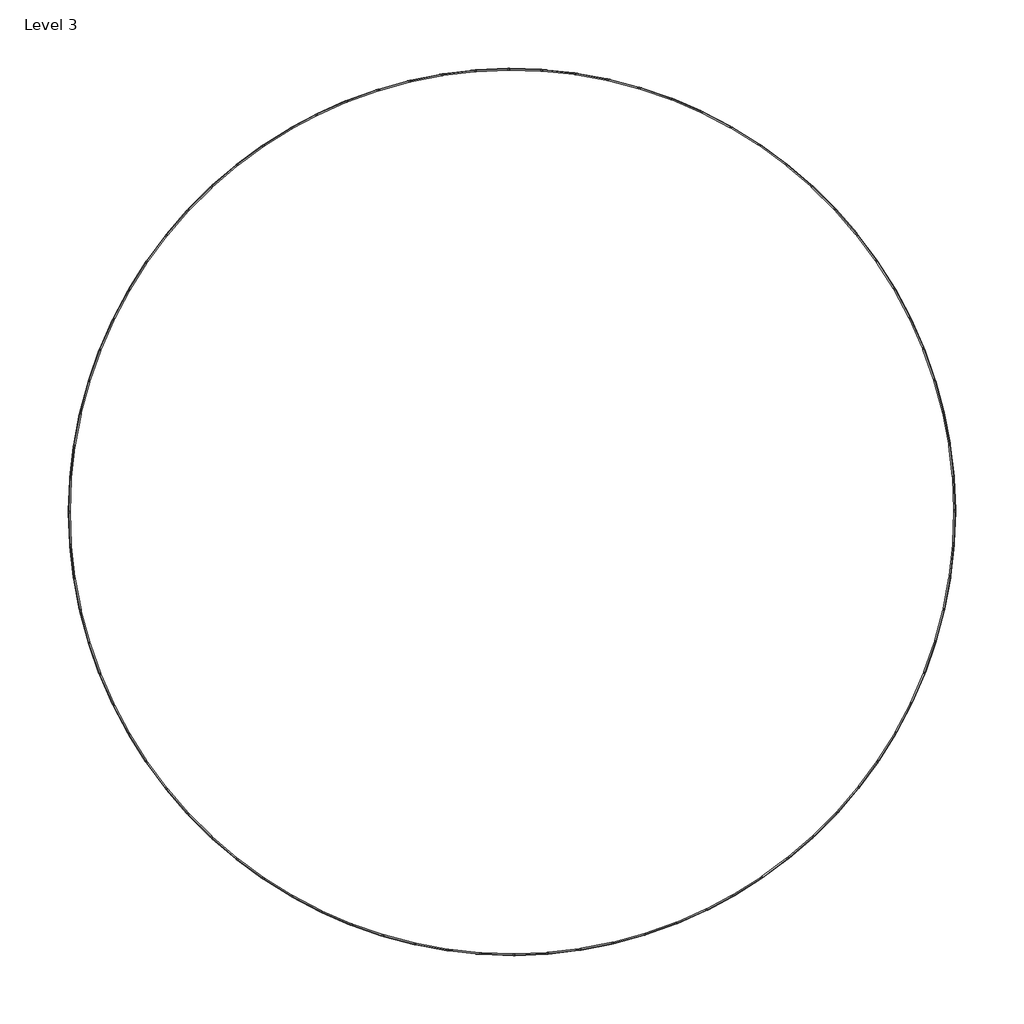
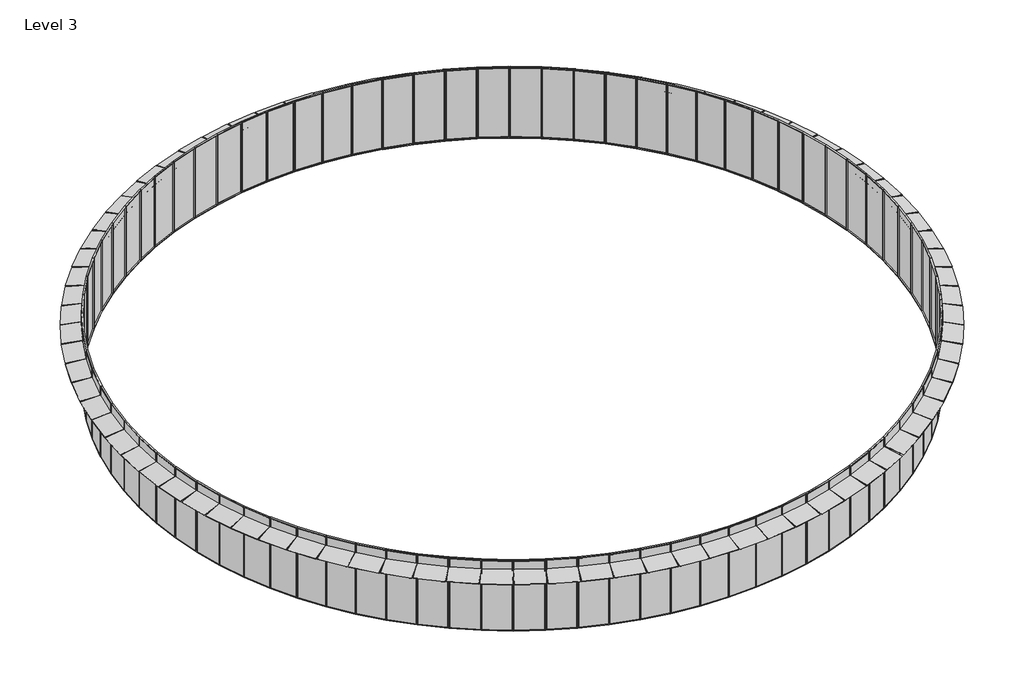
# One storey: 84 plates.
"""IFC4 building model written with IfcOpenShell, lengths in millimetres."""

from ifc_helpers import new_model, si_unit, origin, place, context, project, spatial, transform, mapped, element, save
from components import typical_panel_typical_panel_1d89b396, typical_panel_typical_panel_922f9ec0, typical_panel_typical_panel_46f82321

model = new_model("IFC4")

# Units and contexts
model_context = context("Model", 3, world=origin())
ifc_project = project(units=[si_unit("LENGTHUNIT", "METRE", prefix="MILLI")], contexts=[model_context])

# Site, building, storey
site = spatial("IfcSite", under=ifc_project)
building = spatial("IfcBuilding", under=site)
storey = spatial("IfcBuildingStorey", under=building, Name="Level 3", Elevation=8000.0)

# Plates
placement = place(None, origin())
typical_panel_typical_panel_shape = typical_panel_typical_panel_1d89b396(model_context)
element("IfcPlate", 1, ObjectType="Typical Panel : Typical Panel", at=placement, inside=storey, context=model_context, shape_type="MappedRepresentation", body=[
    mapped(typical_panel_typical_panel_shape, transform((10634.9997073, -16921.4148702, 8000.0), x_axis=(0.8466662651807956, 0.5321242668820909, 0.0), y_axis=(-0.5321242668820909, 0.8466662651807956, 0.0), z_axis=(0.0, 0.0, 1.0))),
])
element("IfcPlate", 2, ObjectType="Typical Panel : Typical Panel", at=placement, inside=storey, context=model_context, shape_type="MappedRepresentation", body=[
    mapped(typical_panel_typical_panel_shape, transform((-10583.4122709, 16953.727752, 8000.0), x_axis=(-0.8482830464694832, -0.5295430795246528, 0.0), y_axis=(0.5295430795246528, -0.8482830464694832, 0.0), z_axis=(0.0, 0.0, 1.0))),
])
typical_panel_typical_panel_2_shape = typical_panel_typical_panel_922f9ec0(model_context)
element("IfcPlate", 3, ObjectType="Typical Panel : Typical Panel", at=placement, inside=storey, context=model_context, shape_type="MappedRepresentation", body=[
    mapped(typical_panel_typical_panel_2_shape, transform((11873.30224, -16076.7594346, 8000.0), x_axis=(0.8044037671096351, 0.5940829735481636, 0.0), y_axis=(-0.5940829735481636, 0.8044037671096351, 0.0), z_axis=(0.0, 0.0, 1.0))),
])
element("IfcPlate", 4, ObjectType="Typical Panel : Typical Panel", at=placement, inside=storey, context=model_context, shape_type="MappedRepresentation", body=[
    mapped(typical_panel_typical_panel_2_shape, transform((13044.8174389, -15141.6722321, 8000.0), x_axis=(0.7576164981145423, 0.6526999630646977, 0.0), y_axis=(-0.6526999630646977, 0.7576164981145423, 0.0), z_axis=(0.0, 0.0, 1.0))),
])
element("IfcPlate", 5, ObjectType="Typical Panel : Typical Panel", at=placement, inside=storey, context=model_context, shape_type="MappedRepresentation", body=[
    mapped(typical_panel_typical_panel_2_shape, transform((14142.9555398, -14121.4131233, 8000.0), x_axis=(0.706567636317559, 0.7076455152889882, 0.0), y_axis=(-0.7076455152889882, 0.706567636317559, 0.0), z_axis=(0.0, 0.0, 1.0))),
])
element("IfcPlate", 6, ObjectType="Typical Panel : Typical Panel", at=placement, inside=storey, context=model_context, shape_type="MappedRepresentation", body=[
    mapped(typical_panel_typical_panel_2_shape, transform((15161.5395157, -13021.7210658, 8000.0), x_axis=(0.651544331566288, 0.7586105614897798, 0.0), y_axis=(-0.7586105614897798, 0.651544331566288, 0.0), z_axis=(0.0, 0.0, 1.0))),
])
element("IfcPlate", 7, ObjectType="Typical Panel : Typical Panel", at=placement, inside=storey, context=model_context, shape_type="MappedRepresentation", body=[
    mapped(typical_panel_typical_panel_2_shape, transform((16094.8398318, -11848.7818272, 8000.0), x_axis=(0.5928560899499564, 0.8053084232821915, 0.0), y_axis=(-0.8053084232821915, 0.5928560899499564, 0.0), z_axis=(0.0, 0.0, 1.0))),
])
element("IfcPlate", 8, ObjectType="Typical Panel : Typical Panel", at=placement, inside=storey, context=model_context, shape_type="MappedRepresentation", body=[
    mapped(typical_panel_typical_panel_2_shape, transform((16937.6066739, -10609.1931908, 8000.0), x_axis=(0.5308330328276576, 0.84747642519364, 0.0), y_axis=(-0.84747642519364, 0.5308330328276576, 0.0), z_axis=(0.0, 0.0, 1.0))),
])
element("IfcPlate", 9, ObjectType="Typical Panel : Typical Panel", at=placement, inside=storey, context=model_context, shape_type="MappedRepresentation", body=[
    mapped(typical_panel_typical_panel_2_shape, transform((17685.0994784, -9309.9278428, 8000.0), x_axis=(0.46582403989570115, 0.8848773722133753, 0.0), y_axis=(-0.8848773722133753, 0.46582403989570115, 0.0), z_axis=(0.0, 0.0, 1.0))),
])
element("IfcPlate", 10, ObjectType="Typical Panel : Typical Panel", at=placement, inside=storey, context=model_context, shape_type="MappedRepresentation", body=[
    mapped(typical_panel_typical_panel_2_shape, transform((18333.1135984, -7958.2941506, 8000.0), x_axis=(0.39819478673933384, 0.9173008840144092, 0.0), y_axis=(-0.9173008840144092, 0.39819478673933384, 0.0), z_axis=(0.0, 0.0, 1.0))),
])
element("IfcPlate", 11, ObjectType="Typical Panel : Typical Panel", at=placement, inside=storey, context=model_context, shape_type="MappedRepresentation", body=[
    mapped(typical_panel_typical_panel_2_shape, transform((18878.0039544, -6561.8950538, 8000.0), x_axis=(0.32832568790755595, 0.9445645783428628, 0.0), y_axis=(-0.9445645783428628, 0.32832568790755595, 0.0), z_axis=(0.0, 0.0, 1.0))),
])
element("IfcPlate", 12, ObjectType="Typical Panel : Typical Panel", at=placement, inside=storey, context=model_context, shape_type="MappedRepresentation", body=[
    mapped(typical_panel_typical_panel_2_shape, transform((19316.7055381, -5128.5852974, 8000.0), x_axis=(0.2566097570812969, 0.9665150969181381, 0.0), y_axis=(-0.9665150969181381, 0.2566097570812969, 0.0), z_axis=(0.0, 0.0, 1.0))),
])
element("IfcPlate", 13, ObjectType="Typical Panel : Typical Panel", at=placement, inside=storey, context=model_context, shape_type="MappedRepresentation", body=[
    mapped(typical_panel_typical_panel_2_shape, transform((19646.7506532, -3666.4272486, 8000.0), x_axis=(0.1834503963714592, 0.9830289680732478, 0.0), y_axis=(-0.9830289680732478, 0.1834503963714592, 0.0), z_axis=(0.0, 0.0, 1.0))),
])
element("IfcPlate", 14, ObjectType="Typical Panel : Typical Panel", at=placement, inside=storey, context=model_context, shape_type="MappedRepresentation", body=[
    mapped(typical_panel_typical_panel_2_shape, transform((19866.2827959, -2183.6455466, 8000.0), x_axis=(0.10925912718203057, 0.9940133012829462, 0.0), y_axis=(-0.9940133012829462, 0.10925912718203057, 0.0), z_axis=(0.0, 0.0, 1.0))),
])
element("IfcPlate", 15, ObjectType="Typical Panel : Typical Panel", at=placement, inside=storey, context=model_context, shape_type="MappedRepresentation", body=[
    mapped(typical_panel_typical_panel_2_shape, transform((19974.0670978, -688.5808384, 8000.0), x_axis=(0.03445327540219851, 0.9994063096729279, 0.0), y_axis=(-0.9994063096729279, 0.03445327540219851, 0.0), z_axis=(0.0, 0.0, 1.0))),
])
element("IfcPlate", 16, ObjectType="Typical Panel : Typical Panel", at=placement, inside=storey, context=model_context, shape_type="MappedRepresentation", body=[
    mapped(typical_panel_typical_panel_2_shape, transform((19969.4972724, 810.357137, 8000.0), x_axis=(-0.04054637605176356, 0.9991776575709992, 0.0), y_axis=(-0.9991776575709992, -0.04054637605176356, 0.0), z_axis=(0.0, 0.0, 1.0))),
])
element("IfcPlate", 17, ObjectType="Typical Panel : Typical Panel", at=placement, inside=storey, context=model_context, shape_type="MappedRepresentation", body=[
    mapped(typical_panel_typical_panel_2_shape, transform((19852.5990247, 2304.7368536, 8000.0), x_axis=(-0.115317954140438, 0.9933286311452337, 0.0), y_axis=(-0.9933286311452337, -0.115317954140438, 0.0), z_axis=(0.0, 0.0, 1.0))),
])
element("IfcPlate", 18, ObjectType="Typical Panel : Typical Panel", at=placement, inside=storey, context=model_context, shape_type="MappedRepresentation", body=[
    mapped(typical_panel_typical_panel_2_shape, transform((19624.0299075, 3786.1524253, 8000.0), x_axis=(-0.18944086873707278, 0.9818921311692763, 0.0), y_axis=(-0.9818921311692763, -0.18944086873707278, 0.0), z_axis=(0.0, 0.0, 1.0))),
])
element("IfcPlate", 19, ObjectType="Typical Panel : Typical Panel", at=placement, inside=storey, context=model_context, shape_type="MappedRepresentation", body=[
    mapped(typical_panel_typical_panel_2_shape, transform((19285.0756222, 5246.2708896, 8000.0), x_axis=(-0.2624981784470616, 0.9649324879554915, 0.0), y_axis=(-0.9649324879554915, -0.2624981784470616, 0.0), z_axis=(0.0, 0.0, 1.0))),
])
element("IfcPlate", 20, ObjectType="Typical Panel : Typical Panel", at=placement, inside=storey, context=model_context, shape_type="MappedRepresentation", body=[
    mapped(typical_panel_typical_panel_2_shape, transform((18837.6427864, 6676.8790802, 8000.0), x_axis=(-0.3340789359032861, 0.9425450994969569, 0.0), y_axis=(-0.9425450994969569, -0.3340789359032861, 0.0), z_axis=(0.0, 0.0, 1.0))),
])
element("IfcPlate", 21, ObjectType="Typical Panel : Typical Panel", at=placement, inside=storey, context=model_context, shape_type="MappedRepresentation", body=[
    mapped(typical_panel_typical_panel_2_shape, transform((18284.24821, 8069.929826, 8000.0), x_axis=(-0.40378049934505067, 0.9148558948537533, 0.0), y_axis=(-0.9148558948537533, -0.40378049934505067, 0.0), z_axis=(0.0, 0.0, 1.0))),
])
element("IfcPlate", 22, ObjectType="Typical Panel : Typical Panel", at=placement, inside=storey, context=model_context, shape_type="MappedRepresentation", body=[
    mapped(typical_panel_typical_panel_2_shape, transform((17628.0047373, 9417.5872165, 8000.0), x_axis=(-0.4712107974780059, 0.8820206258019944, 0.0), y_axis=(-0.8820206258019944, -0.4712107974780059, 0.0), z_axis=(0.0, 0.0, 1.0))),
])
element("IfcPlate", 23, ObjectType="Typical Panel : Typical Panel", at=placement, inside=storey, context=model_context, shape_type="MappedRepresentation", body=[
    mapped(typical_panel_typical_panel_2_shape, transform((16872.6037381, 10712.2706789, 8000.0), x_axis=(-0.5359905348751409, 0.8442239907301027, 0.0), y_axis=(-0.8442239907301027, -0.5359905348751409, 0.0), z_axis=(0.0, 0.0, 1.0))),
])
element("IfcPlate", 24, ObjectType="Typical Panel : Typical Panel", at=placement, inside=storey, context=model_context, shape_type="MappedRepresentation", body=[
    mapped(typical_panel_typical_panel_2_shape, transform((16022.2943428, 11946.6976187, 8000.0), x_axis=(-0.5977553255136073, 0.8016785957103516, 0.0), y_axis=(-0.8016785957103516, -0.5977553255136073, 0.0), z_axis=(0.0, 0.0, 1.0))),
])
element("IfcPlate", 25, ObjectType="Typical Panel : Typical Panel", at=placement, inside=storey, context=model_context, shape_type="MappedRepresentation", body=[
    mapped(typical_panel_typical_panel_2_shape, transform((15081.8595418, 13113.9243844, 8000.0), x_axis=(-0.656157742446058, 0.7546237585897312, 0.0), y_axis=(-0.7546237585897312, -0.656157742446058, 0.0), z_axis=(0.0, 0.0, 1.0))),
])
element("IfcPlate", 26, ObjectType="Typical Panel : Typical Panel", at=placement, inside=storey, context=model_context, shape_type="MappedRepresentation", body=[
    mapped(typical_panel_typical_panel_2_shape, transform((14056.5892809, 14207.3853255, 8000.0), x_axis=(-0.7108692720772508, 0.7033241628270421, 0.0), y_axis=(-0.7033241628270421, -0.7108692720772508, 0.0), z_axis=(0.0, 0.0, 1.0))),
])
element("IfcPlate", 27, ObjectType="Typical Panel : Typical Panel", at=placement, inside=storey, context=model_context, shape_type="MappedRepresentation", body=[
    mapped(typical_panel_typical_panel_2_shape, transform((12952.2507053, 15220.9297241, 8000.0), x_axis=(-0.7615821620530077, 0.6480683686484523, 0.0), y_axis=(-0.6480683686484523, -0.7615821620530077, 0.0), z_axis=(0.0, 0.0, 1.0))),
])
element("IfcPlate", 28, ObjectType="Typical Panel : Typical Panel", at=placement, inside=storey, context=model_context, shape_type="MappedRepresentation", body=[
    mapped(typical_panel_typical_panel_2_shape, transform((11775.0557195, 16148.856393, 8000.0), x_axis=(-0.8080111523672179, 0.5891671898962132, 0.0), y_axis=(-0.5891671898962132, -0.8080111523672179, 0.0), z_axis=(0.0, 0.0, 1.0))),
])
element("IfcPlate", 29, ObjectType="Typical Panel : Typical Panel", at=placement, inside=storey, context=model_context, shape_type="MappedRepresentation", body=[
    mapped(typical_panel_typical_panel_2_shape, transform((10531.6260453, 16985.9457447, 8000.0), x_axis=(-0.8498950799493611, 0.5269519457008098, 0.0), y_axis=(-0.5269519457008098, -0.8498950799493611, 0.0), z_axis=(0.0, 0.0, 1.0))),
])
element("IfcPlate", 30, ObjectType="Typical Panel : Typical Panel", at=placement, inside=storey, context=model_context, shape_type="MappedRepresentation", body=[
    mapped(typical_panel_typical_panel_2_shape, transform((9228.9559745, 17727.4891516, 8000.0), x_axis=(-0.8869983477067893, 0.46177259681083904, 0.0), y_axis=(-0.46177259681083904, -0.8869983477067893, 0.0), z_axis=(0.0, 0.0, 1.0))),
])
element("IfcPlate", 31, ObjectType="Typical Panel : Typical Panel", at=placement, inside=storey, context=model_context, shape_type="MappedRepresentation", body=[
    mapped(typical_panel_typical_panel_2_shape, transform((7874.3730264, 18369.315432, 8000.0), x_axis=(-0.9191122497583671, 0.39399577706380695, 0.0), y_axis=(-0.39399577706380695, -0.9191122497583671, 0.0), z_axis=(0.0, 0.0, 1.0))),
])
element("IfcPlate", 32, ObjectType="Typical Panel : Typical Panel", at=placement, inside=storey, context=model_context, shape_type="MappedRepresentation", body=[
    mapped(typical_panel_typical_panel_2_shape, transform((6475.4967301, 18907.8143131, 8000.0), x_axis=(-0.9460561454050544, 0.32400273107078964, 0.0), y_axis=(-0.32400273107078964, -0.9460561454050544, 0.0), z_axis=(0.0, 0.0, 1.0))),
])
element("IfcPlate", 33, ObjectType="Typical Panel : Typical Panel", at=placement, inside=storey, context=model_context, shape_type="MappedRepresentation", body=[
    mapped(typical_panel_typical_panel_2_shape, transform((5040.1957646, 19339.9567387, 8000.0), x_axis=(-0.967678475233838, 0.25218716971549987, 0.0), y_axis=(-0.25218716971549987, -0.967678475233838, 0.0), z_axis=(0.0, 0.0, 1.0))),
])
element("IfcPlate", 34, ObjectType="Typical Panel : Typical Panel", at=placement, inside=storey, context=model_context, shape_type="MappedRepresentation", body=[
    mapped(typical_panel_typical_panel_2_shape, transform((3576.5436979, 19663.3119076, 8000.0), x_axis=(-0.9838576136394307, 0.178953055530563, 0.0), y_axis=(-0.178953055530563, -0.9838576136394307, 0.0), z_axis=(0.0, 0.0, 1.0))),
])
element("IfcPlate", 35, ObjectType="Typical Panel : Typical Panel", at=placement, inside=storey, context=model_context, shape_type="MappedRepresentation", body=[
    mapped(typical_panel_typical_panel_2_shape, transform((2092.773573, 19876.0609471, 8000.0), x_axis=(-0.9945025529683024, 0.10471233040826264, 0.0), y_axis=(-0.10471233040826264, -0.9945025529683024, 0.0), z_axis=(0.0, 0.0, 1.0))),
])
element("IfcPlate", 36, ObjectType="Typical Panel : Typical Panel", at=placement, inside=storey, context=model_context, shape_type="MappedRepresentation", body=[
    mapped(typical_panel_typical_panel_2_shape, transform((597.2315967, 19977.0071437, 8000.0), x_axis=(-0.9995534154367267, 0.02988259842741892, 0.0), y_axis=(-0.02988259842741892, -0.9995534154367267, 0.0), z_axis=(0.0, 0.0, 1.0))),
])
element("IfcPlate", 37, ObjectType="Typical Panel : Typical Panel", at=placement, inside=storey, context=model_context, shape_type="MappedRepresentation", body=[
    mapped(typical_panel_typical_panel_2_shape, transform((-901.6698074, 19965.5826752, 8000.0), x_axis=(-0.9989817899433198, -0.04511522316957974, 0.0), y_axis=(0.04511522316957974, -0.9989817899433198, 0.0), z_axis=(0.0, 0.0, 1.0))),
])
element("IfcPlate", 38, ObjectType="Typical Panel : Typical Panel", at=placement, inside=storey, context=model_context, shape_type="MappedRepresentation", body=[
    mapped(typical_panel_typical_panel_2_shape, transform((-2395.4993187, 19841.8518041, 8000.0), x_axis=(-0.9927908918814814, -0.11985927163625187, 0.0), y_axis=(0.11985927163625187, -0.9927908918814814, 0.0), z_axis=(0.0, 0.0, 1.0))),
])
element("IfcPlate", 39, ObjectType="Typical Panel : Typical Panel", at=placement, inside=storey, context=model_context, shape_type="MappedRepresentation", body=[
    mapped(typical_panel_typical_panel_2_shape, transform((-3875.8541464, 19606.5105165, 8000.0), x_axis=(-0.9810155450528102, -0.19392911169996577, 0.0), y_axis=(0.19392911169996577, -0.9810155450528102, 0.0), z_axis=(0.0, 0.0, 1.0))),
])
element("IfcPlate", 40, ObjectType="Typical Panel : Typical Panel", at=placement, inside=storey, context=model_context, shape_type="MappedRepresentation", body=[
    mapped(typical_panel_typical_panel_2_shape, transform((-5334.4072946, 19260.8826074, 8000.0), x_axis=(-0.9637219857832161, -0.2669081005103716, 0.0), y_axis=(0.2669081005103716, -0.9637219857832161, 0.0), z_axis=(0.0, 0.0, 1.0))),
])
element("IfcPlate", 41, ObjectType="Typical Panel : Typical Panel", at=placement, inside=storey, context=model_context, shape_type="MappedRepresentation", body=[
    mapped(typical_panel_typical_panel_2_shape, transform((-6762.9544017, 18806.9122336, 8000.0), x_axis=(-0.9410074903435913, -0.3383857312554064, 0.0), y_axis=(0.3383857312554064, -0.9410074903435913, 0.0), z_axis=(0.0, 0.0, 1.0))),
])
element("IfcPlate", 42, ObjectType="Typical Panel : Typical Panel", at=placement, inside=storey, context=model_context, shape_type="MappedRepresentation", body=[
    mapped(typical_panel_typical_panel_2_shape, transform((-8153.4598902, 18247.1529784, 8000.0), x_axis=(-0.9129998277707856, -0.4079599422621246, 0.0), y_axis=(0.4079599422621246, -0.9129998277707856, 0.0), z_axis=(0.0, 0.0, 1.0))),
])
element("IfcPlate", 43, ObjectType="Typical Panel : Typical Panel", at=placement, inside=storey, context=model_context, shape_type="MappedRepresentation", body=[
    mapped(typical_panel_typical_panel_2_shape, transform((-11824.2816548, 16112.8477727, 8000.0), x_axis=(-0.8062094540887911, -0.5916302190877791, 0.0), y_axis=(0.5916302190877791, -0.8062094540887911, 0.0), z_axis=(0.0, 0.0, 1.0))),
])
element("IfcPlate", 44, ObjectType="Typical Panel : Typical Panel", at=placement, inside=storey, context=model_context, shape_type="MappedRepresentation", body=[
    mapped(typical_panel_typical_panel_2_shape, transform((-12998.6394457, 15181.3330297, 8000.0), x_axis=(-0.7596009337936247, -0.6503894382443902, 0.0), y_axis=(0.6503894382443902, -0.7596009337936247, 0.0), z_axis=(0.0, 0.0, 1.0))),
])
element("IfcPlate", 45, ObjectType="Typical Panel : Typical Panel", at=placement, inside=storey, context=model_context, shape_type="MappedRepresentation", body=[
    mapped(typical_panel_typical_panel_2_shape, transform((-14099.8798898, 14164.4232885, 8000.0), x_axis=(-0.7087196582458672, -0.7054902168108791, 0.0), y_axis=(0.7054902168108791, -0.7087196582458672, 0.0), z_axis=(0.0, 0.0, 1.0))),
])
element("IfcPlate", 46, ObjectType="Typical Panel : Typical Panel", at=placement, inside=storey, context=model_context, shape_type="MappedRepresentation", body=[
    mapped(typical_panel_typical_panel_2_shape, transform((-15121.8085094, 13067.8386662, 8000.0), x_axis=(-0.6538518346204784, -0.7566226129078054, 0.0), y_axis=(0.7566226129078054, -0.6538518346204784, 0.0), z_axis=(0.0, 0.0, 1.0))),
])
element("IfcPlate", 47, ObjectType="Typical Panel : Typical Panel", at=placement, inside=storey, context=model_context, shape_type="MappedRepresentation", body=[
    mapped(typical_panel_typical_panel_2_shape, transform((-16058.6769562, 11897.7474514, 8000.0), x_axis=(-0.5953060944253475, -0.8034990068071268, 0.0), y_axis=(0.8034990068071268, -0.5953060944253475, 0.0), z_axis=(0.0, 0.0, 1.0))),
])
element("IfcPlate", 48, ObjectType="Typical Panel : Typical Panel", at=placement, inside=storey, context=model_context, shape_type="MappedRepresentation", body=[
    mapped(typical_panel_typical_panel_2_shape, transform((-16905.2153451, 10660.7314072, 8000.0), x_axis=(-0.5334117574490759, -0.8458557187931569, 0.0), y_axis=(0.8458557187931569, -0.5334117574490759, 0.0), z_axis=(0.0, 0.0, 1.0))),
])
element("IfcPlate", 49, ObjectType="Typical Panel : Typical Panel", at=placement, inside=storey, context=model_context, shape_type="MappedRepresentation", body=[
    mapped(typical_panel_typical_panel_2_shape, transform((-17656.6618977, 9363.7487488, 8000.0), x_axis=(-0.4685169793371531, -0.883454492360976, 0.0), y_axis=(0.883454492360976, -0.4685169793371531, 0.0), z_axis=(0.0, 0.0, 1.0))),
])
element("IfcPlate", 50, ObjectType="Typical Panel : Typical Panel", at=placement, inside=storey, context=model_context, shape_type="MappedRepresentation", body=[
    mapped(typical_panel_typical_panel_2_shape, transform((-18308.7897271, 8014.0950037, 8000.0), x_axis=(-0.40098679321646, -0.9160838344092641, 0.0), y_axis=(0.9160838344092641, -0.40098679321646, 0.0), z_axis=(0.0, 0.0, 1.0))),
])
element("IfcPlate", 51, ObjectType="Typical Panel : Typical Panel", at=placement, inside=storey, context=model_context, shape_type="MappedRepresentation", body=[
    mapped(typical_panel_typical_panel_2_shape, transform((-18857.9306143, 6619.3619743, 8000.0), x_axis=(-0.33120105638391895, -0.9435602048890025, 0.0), y_axis=(0.9435602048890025, -0.33120105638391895, 0.0), z_axis=(0.0, 0.0, 1.0))),
])
element("IfcPlate", 52, ObjectType="Typical Panel : Typical Panel", at=placement, inside=storey, context=model_context, shape_type="MappedRepresentation", body=[
    mapped(typical_panel_typical_panel_2_shape, transform((-19300.9956418, 5187.3950337, 8000.0), x_axis=(-0.2595523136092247, -0.9657290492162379, 0.0), y_axis=(0.9657290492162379, -0.2595523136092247, 0.0), z_axis=(0.0, 0.0, 1.0))),
])
element("IfcPlate", 53, ObjectType="Typical Panel : Typical Panel", at=placement, inside=storey, context=model_context, shape_type="MappedRepresentation", body=[
    mapped(typical_panel_typical_panel_2_shape, transform((-19635.4925688, 3726.248996, 8000.0), x_axis=(-0.18644358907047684, -0.9824656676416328, 0.0), y_axis=(0.9824656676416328, -0.18644358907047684, 0.0), z_axis=(0.0, 0.0, 1.0))),
])
element("IfcPlate", 54, ObjectType="Typical Panel : Typical Panel", at=placement, inside=storey, context=model_context, shape_type="MappedRepresentation", body=[
    mapped(typical_panel_typical_panel_2_shape, transform((-19859.5398501, 2244.1428078, 8000.0), x_axis=(-0.11228611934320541, -0.993675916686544, 0.0), y_axis=(0.993675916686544, -0.11228611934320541, 0.0), z_axis=(0.0, 0.0, 1.0))),
])
element("IfcPlate", 55, ObjectType="Typical Panel : Typical Panel", at=placement, inside=storey, context=model_context, shape_type="MappedRepresentation", body=[
    mapped(typical_panel_typical_panel_2_shape, transform((-19971.8772198, 749.4133163, 8000.0), x_axis=(-0.03749704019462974, -0.9992967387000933, 0.0), y_axis=(0.9992967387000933, -0.03749704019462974, 0.0), z_axis=(0.0, 0.0, 1.0))),
])
element("IfcPlate", 56, ObjectType="Typical Panel : Typical Panel", at=placement, inside=storey, context=model_context, shape_type="MappedRepresentation", body=[
    mapped(typical_panel_typical_panel_2_shape, transform((-19971.8727801, -749.5316252, 8000.0), x_axis=(0.0375029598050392, -0.9992965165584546, 0.0), y_axis=(0.9992965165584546, 0.0375029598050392, 0.0), z_axis=(0.0, 0.0, 1.0))),
])
element("IfcPlate", 57, ObjectType="Typical Panel : Typical Panel", at=placement, inside=storey, context=model_context, shape_type="MappedRepresentation", body=[
    mapped(typical_panel_typical_panel_2_shape, transform((-19859.526556, -2244.2604512, 8000.0), x_axis=(0.11229200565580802, -0.9936752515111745, 0.0), y_axis=(0.9936752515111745, 0.11229200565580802, 0.0), z_axis=(0.0, 0.0, 1.0))),
])
element("IfcPlate", 58, ObjectType="Typical Panel : Typical Panel", at=placement, inside=storey, context=model_context, shape_type="MappedRepresentation", body=[
    mapped(typical_panel_typical_panel_2_shape, transform((-19635.470495, -3726.3653123, 8000.0), x_axis=(0.1864494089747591, -0.9824645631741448, 0.0), y_axis=(0.9824645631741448, 0.1864494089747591, 0.0), z_axis=(0.0, 0.0, 1.0))),
])
element("IfcPlate", 59, ObjectType="Typical Panel : Typical Panel", at=placement, inside=storey, context=model_context, shape_type="MappedRepresentation", body=[
    mapped(typical_panel_typical_panel_2_shape, transform((-19300.9649125, -5187.5093684, 8000.0), x_axis=(0.2595580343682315, -0.9657275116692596, 0.0), y_axis=(0.9657275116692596, 0.2595580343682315, 0.0), z_axis=(0.0, 0.0, 1.0))),
])
element("IfcPlate", 60, ObjectType="Typical Panel : Typical Panel", at=placement, inside=storey, context=model_context, shape_type="MappedRepresentation", body=[
    mapped(typical_panel_typical_panel_2_shape, transform((-18857.8914023, -6619.4736843, 8000.0), x_axis=(0.3312066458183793, -0.9435582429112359, 0.0), y_axis=(0.9435582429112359, 0.3312066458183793, 0.0), z_axis=(0.0, 0.0, 1.0))),
])
element("IfcPlate", 61, ObjectType="Typical Panel : Typical Panel", at=placement, inside=storey, context=model_context, shape_type="MappedRepresentation", body=[
    mapped(typical_panel_typical_panel_2_shape, transform((-18308.7422531, -8014.2034608, 8000.0), x_axis=(0.4009922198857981, -0.9160814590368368, 0.0), y_axis=(0.9160814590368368, 0.4009922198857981, 0.0), z_axis=(0.0, 0.0, 1.0))),
])
element("IfcPlate", 62, ObjectType="Typical Panel : Typical Panel", at=placement, inside=storey, context=model_context, shape_type="MappedRepresentation", body=[
    mapped(typical_panel_typical_panel_2_shape, transform((-17656.6064286, -9363.8533428, 8000.0), x_axis=(0.4685222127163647, -0.8834517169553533, 0.0), y_axis=(0.8834517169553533, 0.4685222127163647, 0.0), z_axis=(0.0, 0.0, 1.0))),
])
element("IfcPlate", 63, ObjectType="Typical Panel : Typical Panel", at=placement, inside=storey, context=model_context, shape_type="MappedRepresentation", body=[
    mapped(typical_panel_typical_panel_2_shape, transform((-16905.152193, -10660.8315497, 8000.0), x_axis=(0.5334167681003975, -0.8458525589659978, 0.0), y_axis=(0.8458525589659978, 0.5334167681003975, 0.0), z_axis=(0.0, 0.0, 1.0))),
])
element("IfcPlate", 64, ObjectType="Typical Panel : Typical Panel", at=placement, inside=storey, context=model_context, shape_type="MappedRepresentation", body=[
    mapped(typical_panel_typical_panel_2_shape, transform((-16058.6064763, -11897.8425792, 8000.0), x_axis=(0.5953108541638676, -0.8034954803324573, 0.0), y_axis=(0.8034954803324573, 0.5953108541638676, 0.0), z_axis=(0.0, 0.0, 1.0))),
])
element("IfcPlate", 65, ObjectType="Typical Panel : Typical Panel", at=placement, inside=storey, context=model_context, shape_type="MappedRepresentation", body=[
    mapped(typical_panel_typical_panel_2_shape, transform((-15121.7310982, -13067.9282442, 8000.0), x_axis=(0.6538563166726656, -0.7566187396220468, 0.0), y_axis=(0.7566187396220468, 0.6538563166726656, 0.0), z_axis=(0.0, 0.0, 1.0))),
])
element("IfcPlate", 66, ObjectType="Typical Panel : Typical Panel", at=placement, inside=storey, context=model_context, shape_type="MappedRepresentation", body=[
    mapped(typical_panel_typical_panel_2_shape, transform((-14099.7959826, -14164.5068128, 8000.0), x_axis=(0.7087238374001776, -0.7054860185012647, 0.0), y_axis=(0.7054860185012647, 0.7087238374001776, 0.0), z_axis=(0.0, 0.0, 1.0))),
])
element("IfcPlate", 67, ObjectType="Typical Panel : Typical Panel", at=placement, inside=storey, context=model_context, shape_type="MappedRepresentation", body=[
    mapped(typical_panel_typical_panel_2_shape, transform((-12998.5495147, -15181.4100305, 8000.0), x_axis=(0.7596047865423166, -0.6503849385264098, 0.0), y_axis=(0.6503849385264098, 0.7596047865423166, 0.0), z_axis=(0.0, 0.0, 1.0))),
])
element("IfcPlate", 68, ObjectType="Typical Panel : Typical Panel", at=placement, inside=storey, context=model_context, shape_type="MappedRepresentation", body=[
    mapped(typical_panel_typical_panel_2_shape, transform((-11824.1862057, -16112.9178169, 8000.0), x_axis=(0.8062129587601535, -0.5916254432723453, 0.0), y_axis=(0.5916254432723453, 0.8062129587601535, 0.0), z_axis=(0.0, 0.0, 1.0))),
])
element("IfcPlate", 69, ObjectType="Typical Panel : Typical Panel", at=placement, inside=storey, context=model_context, shape_type="MappedRepresentation", body=[
    mapped(typical_panel_typical_panel_2_shape, transform((-10583.3118493, -16953.7904405, 8000.0), x_axis=(0.8482861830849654, -0.5295380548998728, 0.0), y_axis=(0.5295380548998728, 0.8482861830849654, 0.0), z_axis=(0.0, 0.0, 1.0))),
])
element("IfcPlate", 70, ObjectType="Typical Panel : Typical Panel", at=placement, inside=storey, context=model_context, shape_type="MappedRepresentation", body=[
    mapped(typical_panel_typical_panel_2_shape, transform((-9282.9063638, -17699.2979929, 8000.0), x_axis=(0.885587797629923, -0.46447201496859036, 0.0), y_axis=(0.46447201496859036, 0.885587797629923, 0.0), z_axis=(0.0, 0.0, 1.0))),
])
element("IfcPlate", 71, ObjectType="Typical Panel : Typical Panel", at=placement, inside=storey, context=model_context, shape_type="MappedRepresentation", body=[
    mapped(typical_panel_typical_panel_2_shape, transform((-7930.2845299, -18345.2469941, 8000.0), x_axis=(0.9179079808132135, -0.39679331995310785, 0.0), y_axis=(0.39679331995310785, 0.9179079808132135, 0.0), z_axis=(0.0, 0.0, 1.0))),
])
element("IfcPlate", 72, ObjectType="Typical Panel : Typical Panel", at=placement, inside=storey, context=model_context, shape_type="MappedRepresentation", body=[
    mapped(typical_panel_typical_panel_2_shape, transform((-6533.0548456, -18888.0039809, 8000.0), x_axis=(0.945064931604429, -0.32688266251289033, 0.0), y_axis=(0.32688266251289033, 0.945064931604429, 0.0), z_axis=(0.0, 0.0, 1.0))),
])
element("IfcPlate", 73, ObjectType="Typical Panel : Typical Panel", at=placement, inside=storey, context=model_context, shape_type="MappedRepresentation", body=[
    mapped(typical_panel_typical_panel_2_shape, transform((-5099.0767278, -19324.5159454, 8000.0), x_axis=(0.9669058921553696, -0.2551332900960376, 0.0), y_axis=(0.2551332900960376, 0.9669058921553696, 0.0), z_axis=(0.0, 0.0, 1.0))),
])
element("IfcPlate", 74, ObjectType="Typical Panel : Typical Panel", at=placement, inside=storey, context=model_context, shape_type="MappedRepresentation", body=[
    mapped(typical_panel_typical_panel_2_shape, transform((-3636.4163034, -19652.3275077, 8000.0), x_axis=(0.9833080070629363, -0.18194879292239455, 0.0), y_axis=(0.18194879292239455, 0.9833080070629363, 0.0), z_axis=(0.0, 0.0, 1.0))),
])
element("IfcPlate", 75, ObjectType="Typical Panel : Typical Panel", at=placement, inside=storey, context=model_context, shape_type="MappedRepresentation", body=[
    mapped(typical_panel_typical_panel_2_shape, transform((-2153.3010373, -19869.5947277, 8000.0), x_axis=(0.9941790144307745, -0.10774083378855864, 0.0), y_axis=(0.10774083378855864, 0.9941790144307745, 0.0), z_axis=(0.0, 0.0, 1.0))),
])
element("IfcPlate", 76, ObjectType="Typical Panel : Typical Panel", at=placement, inside=storey, context=model_context, shape_type="MappedRepresentation", body=[
    mapped(typical_panel_typical_panel_2_shape, transform((-658.0734528, -19975.0954774, 8000.0), x_axis=(0.9994577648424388, -0.03292683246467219, 0.0), y_axis=(0.03292683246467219, 0.9994577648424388, 0.0), z_axis=(0.0, 0.0, 1.0))),
])
element("IfcPlate", 77, ObjectType="Typical Panel : Typical Panel", at=placement, inside=storey, context=model_context, shape_type="MappedRepresentation", body=[
    mapped(typical_panel_typical_panel_2_shape, transform((840.8557948, -19968.236315, 8000.0), x_axis=(0.9991145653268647, 0.04207238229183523, 0.0), y_axis=(-0.04207238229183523, 0.9991145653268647, 0.0), z_axis=(0.0, 0.0, 1.0))),
])
element("IfcPlate", 78, ObjectType="Typical Panel : Typical Panel", at=placement, inside=storey, context=model_context, shape_type="MappedRepresentation", body=[
    mapped(typical_panel_typical_panel_2_shape, transform((2335.0552286, -19849.0558234, 8000.0), x_axis=(0.9931513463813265, 0.1168349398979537, 0.0), y_axis=(-0.1168349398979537, 0.9931513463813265, 0.0), z_axis=(0.0, 0.0, 1.0))),
])
element("IfcPlate", 79, ObjectType="Typical Panel : Typical Panel", at=placement, inside=storey, context=model_context, shape_type="MappedRepresentation", body=[
    mapped(typical_panel_typical_panel_2_shape, transform((3816.1199767, -19618.2243927, 8000.0), x_axis=(0.9816016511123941, 0.19094030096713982, 0.0), y_axis=(-0.19094030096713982, 0.9816016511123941, 0.0), z_axis=(0.0, 0.0, 1.0))),
])
element("IfcPlate", 80, ObjectType="Typical Panel : Typical Panel", at=placement, inside=storey, context=model_context, shape_type="MappedRepresentation", body=[
    mapped(typical_panel_typical_panel_2_shape, transform((5275.71905, -19277.0404499, 8000.0), x_axis=(0.9645304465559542, 0.2639716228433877, 0.0), y_axis=(-0.2639716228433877, 0.9645304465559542, 0.0), z_axis=(0.0, 0.0, 1.0))),
])
element("IfcPlate", 81, ObjectType="Typical Panel : Typical Panel", at=placement, inside=storey, context=model_context, shape_type="MappedRepresentation", body=[
    mapped(typical_panel_typical_panel_2_shape, transform((6705.6422036, -18827.4231545, 8000.0), x_axis=(0.9420337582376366, 0.335518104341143, 0.0), y_axis=(-0.335518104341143, 0.9420337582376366, 0.0), z_axis=(0.0, 0.0, 1.0))),
])
element("IfcPlate", 82, ObjectType="Typical Panel : Typical Panel", at=placement, inside=storey, context=model_context, shape_type="MappedRepresentation", body=[
    mapped(typical_panel_typical_panel_2_shape, transform((8097.8461198, -18271.9016038, 8000.0), x_axis=(0.9142381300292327, 0.4051772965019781, 0.0), y_axis=(-0.4051772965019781, 0.9142381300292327, 0.0), z_axis=(0.0, 0.0, 1.0))),
])
typical_panel_typical_panel_3_shape = typical_panel_typical_panel_46f82321(model_context)
element("IfcPlate", 83, ObjectType="Typical Panel : Typical Panel", at=placement, inside=storey, context=model_context, shape_type="MappedRepresentation", body=[
    mapped(typical_panel_typical_panel_3_shape, transform((-9419.1048805, 17630.8455487, 8000.0), x_axis=(-0.8820206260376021, -0.47121079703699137, 0.0), y_axis=(0.47121079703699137, -0.8820206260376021, 0.0), z_axis=(0.0, 0.0, 1.0))),
])
element("IfcPlate", 84, ObjectType="Typical Panel : Typical Panel", at=placement, inside=storey, context=model_context, shape_type="MappedRepresentation", body=[
    mapped(typical_panel_typical_panel_3_shape, transform((9365.3623474, -17659.4518492, 8000.0), x_axis=(0.8834517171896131, 0.46852221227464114, 0.0), y_axis=(-0.46852221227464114, 0.8834517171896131, 0.0), z_axis=(0.0, 0.0, 1.0))),
])

save(model, "model.ifc")
